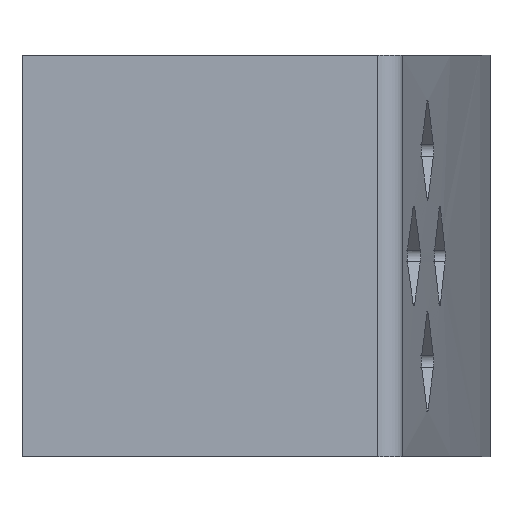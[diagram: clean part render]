
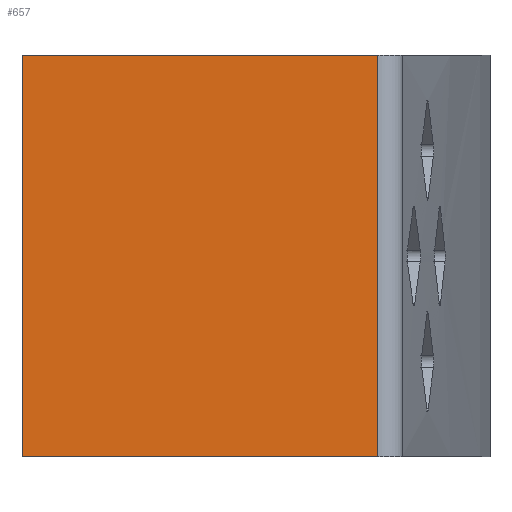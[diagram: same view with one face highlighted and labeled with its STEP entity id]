
A CAD part, left-side view. The second image highlights one B-rep face of the part: STEP entity #657.
In plain terms, the highlighted planar face has unit normal (-1, -0.018, 0).
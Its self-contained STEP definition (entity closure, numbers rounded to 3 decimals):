
#533 = VERTEX_POINT( '', #1560 );
#611 = VERTEX_POINT( '', #1645 );
#619 = EDGE_CURVE( '', #921, #533, #1654, .T. );
#657 = ADVANCED_FACE( '', ( #1694 ), #1695, .T. );
#857 = EDGE_CURVE( '', #917, #611, #1918, .T. );
#917 = VERTEX_POINT( '', #1988 );
#921 = VERTEX_POINT( '', #1992 );
#925 = EDGE_CURVE( '', #533, #611, #1996, .T. );
#1227 = EDGE_CURVE( '', #921, #917, #2326, .T. );
#1560 = CARTESIAN_POINT( '', ( -8.629, -21.28, 12. ) );
#1645 = CARTESIAN_POINT( '', ( -8.629, -21.28, -12. ) );
#1654 = LINE( '', #2822, #2823 );
#1694 = FACE_OUTER_BOUND( '', #2900, .T. );
#1695 = PLANE( '', #2901 );
#1918 = LINE( '', #3299, #3300 );
#1988 = CARTESIAN_POINT( '', ( -9., 0., -12. ) );
#1992 = CARTESIAN_POINT( '', ( -9., 0., 12. ) );
#1996 = LINE( '', #3414, #3415 );
#2326 = LINE( '', #3955, #3956 );
#2822 = CARTESIAN_POINT( '', ( -9., 0., 12. ) );
#2823 = VECTOR( '', #4603, 1. );
#2900 = EDGE_LOOP( '', ( #4642, #4643, #4644, #4645 ) );
#2901 = AXIS2_PLACEMENT_3D( '', #4646, #4647, #4648 );
#3299 = CARTESIAN_POINT( '', ( -9., 0., -12. ) );
#3300 = VECTOR( '', #4919, 1. );
#3414 = CARTESIAN_POINT( '', ( -8.629, -21.28, 12. ) );
#3415 = VECTOR( '', #5025, 1. );
#3955 = CARTESIAN_POINT( '', ( -9., 0., 12. ) );
#3956 = VECTOR( '', #5366, 1. );
#4603 = DIRECTION( '', ( 0.017, -1., 0. ) );
#4642 = ORIENTED_EDGE( '', *, *, #857, .T. );
#4643 = ORIENTED_EDGE( '', *, *, #925, .F. );
#4644 = ORIENTED_EDGE( '', *, *, #619, .F. );
#4645 = ORIENTED_EDGE( '', *, *, #1227, .T. );
#4646 = CARTESIAN_POINT( '', ( -9., 0., 12. ) );
#4647 = DIRECTION( '', ( -1., -0.017, 0. ) );
#4648 = DIRECTION( '', ( -0.017, 1., 0. ) );
#4919 = DIRECTION( '', ( 0.017, -1., 0. ) );
#5025 = DIRECTION( '', ( 0., 0., -1. ) );
#5366 = DIRECTION( '', ( 0., 0., -1. ) );
